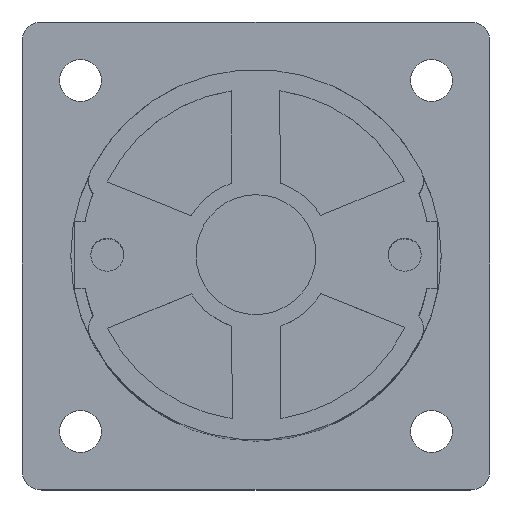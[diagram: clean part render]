
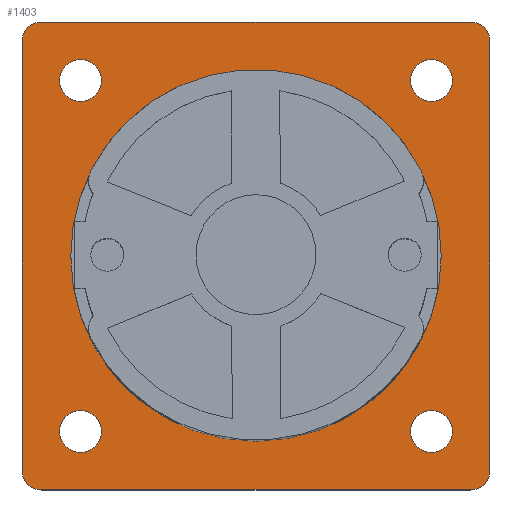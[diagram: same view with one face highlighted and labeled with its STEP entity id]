
A CAD part, top view. The second image highlights one B-rep face of the part: STEP entity #1403.
In plain terms, the highlighted planar face has unit normal (0, 0, 1).
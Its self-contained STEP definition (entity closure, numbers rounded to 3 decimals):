
#369=FACE_BOUND('',#3755,.T.);
#370=FACE_BOUND('',#3756,.T.);
#371=FACE_BOUND('',#3757,.T.);
#372=FACE_BOUND('',#3758,.T.);
#373=FACE_BOUND('',#3759,.T.);
#374=FACE_BOUND('',#3760,.T.);
#634=CIRCLE('',#15888,2.15);
#638=CIRCLE('',#15895,2.15);
#642=CIRCLE('',#15902,2.15);
#646=CIRCLE('',#15909,2.15);
#671=CIRCLE('',#15959,19.);
#716=CIRCLE('',#16054,2.);
#717=CIRCLE('',#16056,2.);
#718=CIRCLE('',#16058,2.);
#719=CIRCLE('',#16060,2.);
#1403=ADVANCED_FACE('',(#369,#370,#371,#372,#373,#374),#2226,.F.);
#2226=PLANE('',#16067);
#3755=EDGE_LOOP('',(#5310,#5311,#5312,#5313,#5314,#5315,#5316,#5317));
#3756=EDGE_LOOP('',(#5318));
#3757=EDGE_LOOP('',(#5319));
#3758=EDGE_LOOP('',(#5320));
#3759=EDGE_LOOP('',(#5321));
#3760=EDGE_LOOP('',(#5322));
#5310=ORIENTED_EDGE('',*,*,#11062,.F.);
#5311=ORIENTED_EDGE('',*,*,#11049,.F.);
#5312=ORIENTED_EDGE('',*,*,#11059,.F.);
#5313=ORIENTED_EDGE('',*,*,#11052,.F.);
#5314=ORIENTED_EDGE('',*,*,#11060,.F.);
#5315=ORIENTED_EDGE('',*,*,#11055,.F.);
#5316=ORIENTED_EDGE('',*,*,#11061,.F.);
#5317=ORIENTED_EDGE('',*,*,#11058,.F.);
#5318=ORIENTED_EDGE('',*,*,#10918,.F.);
#5319=ORIENTED_EDGE('',*,*,#10817,.T.);
#5320=ORIENTED_EDGE('',*,*,#10813,.T.);
#5321=ORIENTED_EDGE('',*,*,#10809,.T.);
#5322=ORIENTED_EDGE('',*,*,#10805,.T.);
#9236=VERTEX_POINT('',#21811);
#9240=VERTEX_POINT('',#21822);
#9244=VERTEX_POINT('',#21833);
#9248=VERTEX_POINT('',#21844);
#9345=VERTEX_POINT('',#22043);
#9434=VERTEX_POINT('',#22311);
#9435=VERTEX_POINT('',#22313);
#9436=VERTEX_POINT('',#22317);
#9437=VERTEX_POINT('',#22319);
#9438=VERTEX_POINT('',#22323);
#9439=VERTEX_POINT('',#22325);
#9440=VERTEX_POINT('',#22329);
#9441=VERTEX_POINT('',#22331);
#10805=EDGE_CURVE('',#9236,#9236,#634,.T.);
#10809=EDGE_CURVE('',#9240,#9240,#638,.T.);
#10813=EDGE_CURVE('',#9244,#9244,#642,.T.);
#10817=EDGE_CURVE('',#9248,#9248,#646,.T.);
#10918=EDGE_CURVE('',#9345,#9345,#671,.T.);
#11049=EDGE_CURVE('',#9435,#9434,#716,.T.);
#11052=EDGE_CURVE('',#9437,#9436,#717,.T.);
#11055=EDGE_CURVE('',#9439,#9438,#718,.T.);
#11058=EDGE_CURVE('',#9441,#9440,#719,.T.);
#11059=EDGE_CURVE('',#9436,#9435,#13132,.T.);
#11060=EDGE_CURVE('',#9438,#9437,#13133,.T.);
#11061=EDGE_CURVE('',#9440,#9439,#13134,.T.);
#11062=EDGE_CURVE('',#9434,#9441,#13135,.T.);
#13132=LINE('',#22334,#14585);
#13133=LINE('',#22336,#14586);
#13134=LINE('',#22338,#14587);
#13135=LINE('',#22340,#14588);
#14585=VECTOR('',#18028,1.);
#14586=VECTOR('',#18031,1.);
#14587=VECTOR('',#18034,1.);
#14588=VECTOR('',#18037,1.);
#15888=AXIS2_PLACEMENT_3D('',#21810,#17536,#17537);
#15895=AXIS2_PLACEMENT_3D('',#21821,#17550,#17551);
#15902=AXIS2_PLACEMENT_3D('',#21832,#17564,#17565);
#15909=AXIS2_PLACEMENT_3D('',#21843,#17578,#17579);
#15959=AXIS2_PLACEMENT_3D('',#22042,#17730,#17731);
#16054=AXIS2_PLACEMENT_3D('',#22314,#18006,#18007);
#16056=AXIS2_PLACEMENT_3D('',#22320,#18012,#18013);
#16058=AXIS2_PLACEMENT_3D('',#22326,#18018,#18019);
#16060=AXIS2_PLACEMENT_3D('',#22332,#18024,#18025);
#16067=AXIS2_PLACEMENT_3D('',#22343,#18042,#18043);
#17536=DIRECTION('',(0.,0.,-1.));
#17537=DIRECTION('',(-1.,0.,0.));
#17550=DIRECTION('',(0.,0.,-1.));
#17551=DIRECTION('',(-1.,0.,0.));
#17564=DIRECTION('',(0.,0.,-1.));
#17565=DIRECTION('',(-1.,0.,0.));
#17578=DIRECTION('',(0.,0.,-1.));
#17579=DIRECTION('',(-1.,0.,0.));
#17730=DIRECTION('',(0.,0.,1.));
#17731=DIRECTION('',(-1.,0.,0.));
#18006=DIRECTION('',(0.,0.,-1.));
#18007=DIRECTION('',(1.,0.,0.));
#18012=DIRECTION('',(0.,0.,-1.));
#18013=DIRECTION('',(1.,0.,0.));
#18018=DIRECTION('',(0.,0.,-1.));
#18019=DIRECTION('',(1.,0.,0.));
#18024=DIRECTION('',(0.,0.,-1.));
#18025=DIRECTION('',(1.,0.,0.));
#18028=DIRECTION('',(0.,-1.,0.));
#18031=DIRECTION('',(1.,0.,0.));
#18034=DIRECTION('',(0.,1.,0.));
#18037=DIRECTION('',(-1.,0.,0.));
#18042=DIRECTION('',(0.,0.,-1.));
#18043=DIRECTION('',(-1.,0.,0.));
#21810=CARTESIAN_POINT('',(18.,-18.,2.5));
#21811=CARTESIAN_POINT('',(15.85,-18.,2.5));
#21821=CARTESIAN_POINT('',(18.,18.,2.5));
#21822=CARTESIAN_POINT('',(15.85,18.,2.5));
#21832=CARTESIAN_POINT('',(-18.,18.,2.5));
#21833=CARTESIAN_POINT('',(-20.15,18.,2.5));
#21843=CARTESIAN_POINT('',(-18.,-18.,2.5));
#21844=CARTESIAN_POINT('',(-20.15,-18.,2.5));
#22042=CARTESIAN_POINT('',(0.,0.,2.5));
#22043=CARTESIAN_POINT('',(-19.,0.,2.5));
#22311=CARTESIAN_POINT('',(22.,-24.,2.5));
#22313=CARTESIAN_POINT('',(24.,-22.,2.5));
#22314=CARTESIAN_POINT('',(22.,-22.,2.5));
#22317=CARTESIAN_POINT('',(24.,22.,2.5));
#22319=CARTESIAN_POINT('',(22.,24.,2.5));
#22320=CARTESIAN_POINT('',(22.,22.,2.5));
#22323=CARTESIAN_POINT('',(-22.,24.,2.5));
#22325=CARTESIAN_POINT('',(-24.,22.,2.5));
#22326=CARTESIAN_POINT('',(-22.,22.,2.5));
#22329=CARTESIAN_POINT('',(-24.,-22.,2.5));
#22331=CARTESIAN_POINT('',(-22.,-24.,2.5));
#22332=CARTESIAN_POINT('',(-22.,-22.,2.5));
#22334=CARTESIAN_POINT('',(24.,22.,2.5));
#22336=CARTESIAN_POINT('',(-22.,24.,2.5));
#22338=CARTESIAN_POINT('',(-24.,-22.,2.5));
#22340=CARTESIAN_POINT('',(22.,-24.,2.5));
#22343=CARTESIAN_POINT('',(-22.,-22.,2.5));
